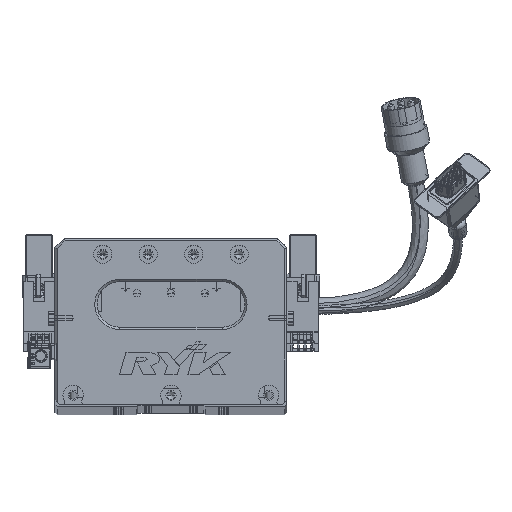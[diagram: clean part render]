
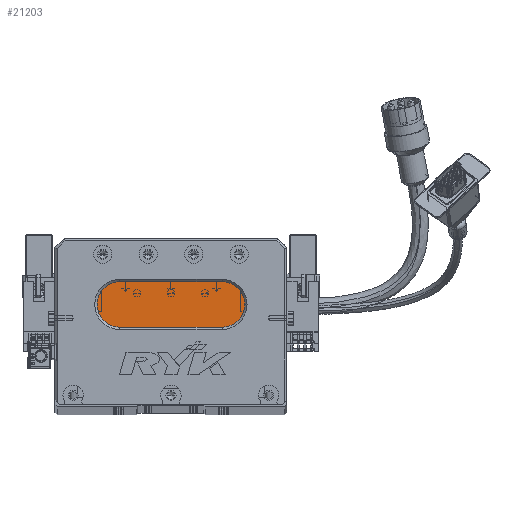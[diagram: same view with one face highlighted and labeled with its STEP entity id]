
A CAD part, top view. The second image highlights one B-rep face of the part: STEP entity #21203.
In plain terms, the highlighted planar face has unit normal (0, 0, 1) as drawn and (0, 0, -1) by its records, which use the part's own axes.
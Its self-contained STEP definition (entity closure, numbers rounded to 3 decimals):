
#505 = ORIENTED_EDGE ( 'NONE', *, *, #76667, .T. ) ;
#1193 = DIRECTION ( 'NONE',  ( -1., 0., 0. ) ) ;
#3927 = AXIS2_PLACEMENT_3D ( 'NONE', #30285, #30796, #72254 ) ;
#4452 = DIRECTION ( 'NONE',  ( -1., 0., 0. ) ) ;
#4623 = DIRECTION ( 'NONE',  ( 0., 0., -1. ) ) ;
#4659 = VERTEX_POINT ( 'NONE', #48990 ) ;
#5635 = VECTOR ( 'NONE', #4452, 1000. ) ;
#5721 = EDGE_CURVE ( 'NONE', #16409, #60865, #56052, .T. ) ;
#6370 = EDGE_LOOP ( 'NONE', ( #58415, #32686, #67614, #505, #45921 ) ) ;
#6681 = CIRCLE ( 'NONE', #9876, 10. ) ;
#9876 = AXIS2_PLACEMENT_3D ( 'NONE', #75328, #4623, #16642 ) ;
#12851 = CARTESIAN_POINT ( 'NONE',  ( 73.5, 54., 13. ) ) ;
#15517 = CIRCLE ( 'NONE', #44451, 10. ) ;
#16409 = VERTEX_POINT ( 'NONE', #51662 ) ;
#16642 = DIRECTION ( 'NONE',  ( -1., 0., 0. ) ) ;
#19267 = CARTESIAN_POINT ( 'NONE',  ( 73.5, 44., 13. ) ) ;
#21203 = ADVANCED_FACE ( 'NONE', ( #52945 ), #73228, .T. ) ;
#21861 = EDGE_CURVE ( 'NONE', #4659, #43100, #15517, .T. ) ;
#24114 = DIRECTION ( 'NONE',  ( 1., 0., 0. ) ) ;
#25012 = DIRECTION ( 'NONE',  ( 0., 0., -1. ) ) ;
#29559 = CARTESIAN_POINT ( 'NONE',  ( 73.5, 34., 13. ) ) ;
#30285 = CARTESIAN_POINT ( 'NONE',  ( 28.5, 44., 13. ) ) ;
#30796 = DIRECTION ( 'NONE',  ( 0., 0., -1. ) ) ;
#32686 = ORIENTED_EDGE ( 'NONE', *, *, #56894, .T. ) ;
#43100 = VERTEX_POINT ( 'NONE', #76774 ) ;
#43880 = AXIS2_PLACEMENT_3D ( 'NONE', #19267, #25012, #1193 ) ;
#43899 = DIRECTION ( 'NONE',  ( 0., 0., -1. ) ) ;
#44451 = AXIS2_PLACEMENT_3D ( 'NONE', #68139, #43899, #50392 ) ;
#45048 = CARTESIAN_POINT ( 'NONE',  ( 73.5, 54., 13. ) ) ;
#45921 = ORIENTED_EDGE ( 'NONE', *, *, #5721, .T. ) ;
#48990 = CARTESIAN_POINT ( 'NONE',  ( 28.5, 34., 13. ) ) ;
#50392 = DIRECTION ( 'NONE',  ( -1., 0., 0. ) ) ;
#51662 = CARTESIAN_POINT ( 'NONE',  ( 28.5, 54., 13. ) ) ;
#52449 = CARTESIAN_POINT ( 'NONE',  ( 73.5, 34., 13. ) ) ;
#52945 = FACE_OUTER_BOUND ( 'NONE', #6370, .T. ) ;
#55202 = CIRCLE ( 'NONE', #3927, 10. ) ;
#56052 = LINE ( 'NONE', #12851, #67288 ) ;
#56894 = EDGE_CURVE ( 'NONE', #76100, #4659, #57848, .T. ) ;
#57848 = LINE ( 'NONE', #52449, #5635 ) ;
#58415 = ORIENTED_EDGE ( 'NONE', *, *, #65698, .T. ) ;
#60865 = VERTEX_POINT ( 'NONE', #45048 ) ;
#65698 = EDGE_CURVE ( 'NONE', #60865, #76100, #6681, .T. ) ;
#67288 = VECTOR ( 'NONE', #24114, 1000. ) ;
#67614 = ORIENTED_EDGE ( 'NONE', *, *, #21861, .T. ) ;
#68139 = CARTESIAN_POINT ( 'NONE',  ( 28.5, 44., 13. ) ) ;
#72254 = DIRECTION ( 'NONE',  ( -1., 0., 0. ) ) ;
#73228 = PLANE ( 'NONE',  #43880 ) ;
#75328 = CARTESIAN_POINT ( 'NONE',  ( 73.5, 44., 13. ) ) ;
#76100 = VERTEX_POINT ( 'NONE', #29559 ) ;
#76667 = EDGE_CURVE ( 'NONE', #43100, #16409, #55202, .T. ) ;
#76774 = CARTESIAN_POINT ( 'NONE',  ( 18.5, 44., 13. ) ) ;
